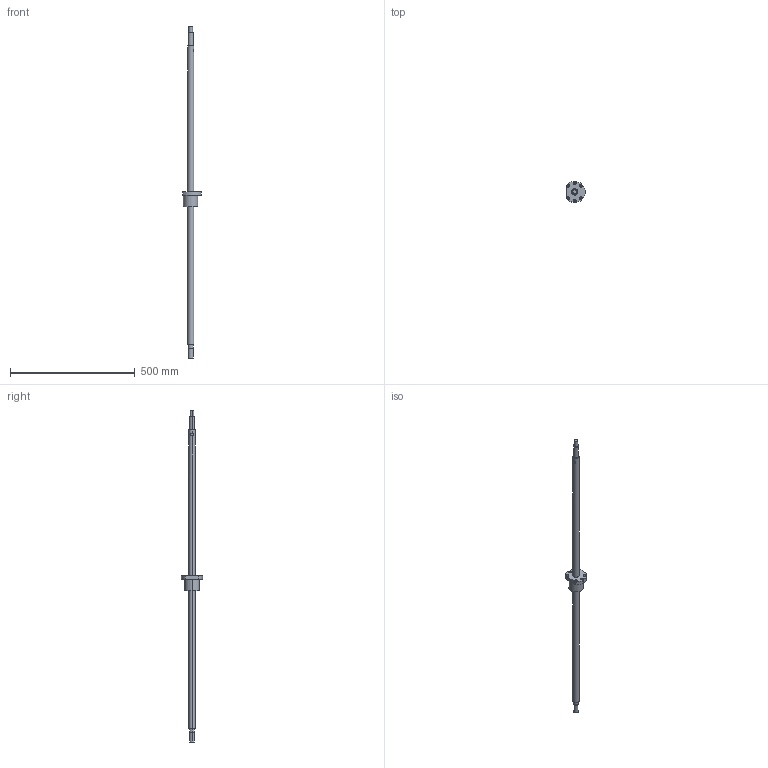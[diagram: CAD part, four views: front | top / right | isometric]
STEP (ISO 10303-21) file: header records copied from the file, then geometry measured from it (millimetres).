
FILE_DESCRIPTION((''),'2;1');
FILE_NAME('R25-10K4-FSC-1170-1333','2008-04-03T',('wcwu'),(''),'PRO/ENGINEER BY PARAMETRIC TECHNOLOGY CORPORATION, 2005070','PRO/ENGINEER BY PARAMETRIC TECHNOLOGY CORPORATION, 2005070','');
FILE_SCHEMA(('CONFIG_CONTROL_DESIGN'));
Length unit declared in the file: millimetre
Products named in the file (1): R25-10K4-FSC-1170-1333
Bounding box: 74.5 x 84.99 x 1333 mm (x, y, z)
Volume: 789910.7 mm3; surface area: 122230.3 mm2
Topology: 1 solids, 1 shells, 64 faces, 144 edges, 96 vertices
Faces by surface type: cylinder 41, plane 23
Entity records: 1900 total; most frequent: DIRECTION 362, CARTESIAN_POINT 304, ORIENTED_EDGE 288, AXIS2_PLACEMENT_3D 154, EDGE_CURVE 144, VERTEX_POINT 96, EDGE_LOOP 90, CIRCLE 90
